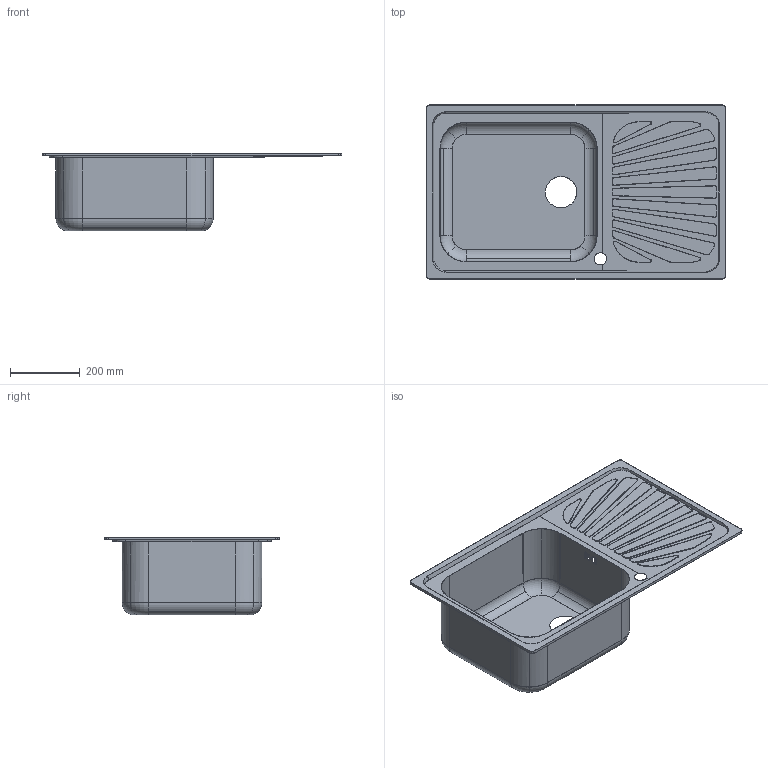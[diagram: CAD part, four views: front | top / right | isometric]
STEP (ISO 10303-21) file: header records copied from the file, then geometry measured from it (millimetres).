
FILE_DESCRIPTION(('CATIA V5 STEP Exchange'),'2;1');
FILE_NAME('C:\Users\linop\Desktop\SG861S.stp','2018-05-29T13:39:05+00:00',('none'),('none'),'CATIA Version 5-6 Release 2014','CATIA V5 STEP AP203','none');
FILE_SCHEMA(('CONFIG_CONTROL_DESIGN'));
Length unit declared in the file: millimetre
Products named in the file (1): SG861S
Bounding box: 860 x 500 x 223.6 mm (x, y, z)
Volume: 516892 mm3; surface area: 1568821.4 mm2
Topology: 2 solids, 2 shells, 374 faces, 1018 edges, 672 vertices
Faces by surface type: cylinder 198, plane 152, cone 12, torus 12
Entity records: 13431 total; most frequent: CARTESIAN_POINT 4795, ORIENTED_EDGE 2036, DIRECTION 1320, EDGE_CURVE 1018, VERTEX_POINT 672, VECTOR 555, LINE 555, AXIS2_PLACEMENT_3D 450
